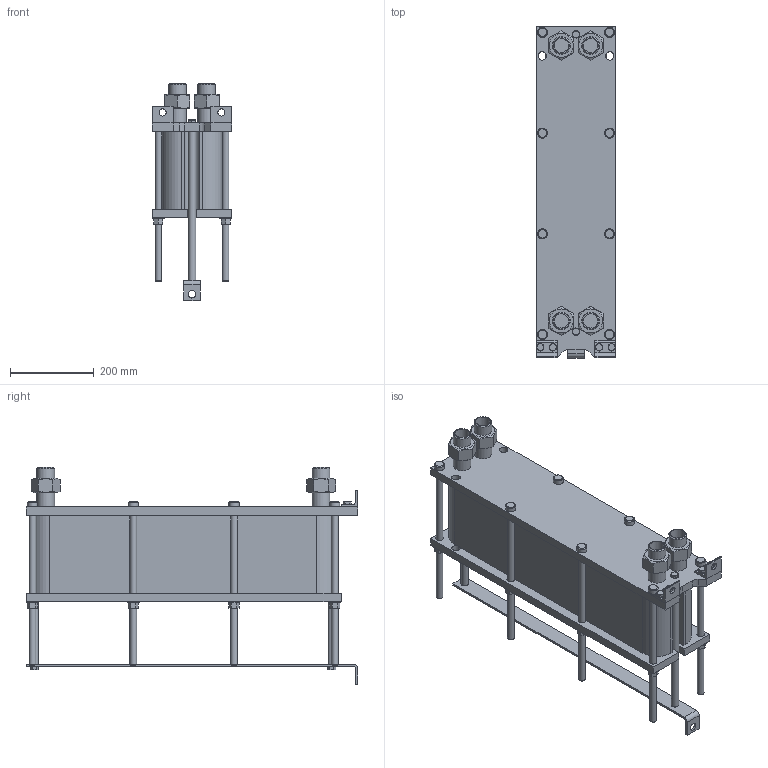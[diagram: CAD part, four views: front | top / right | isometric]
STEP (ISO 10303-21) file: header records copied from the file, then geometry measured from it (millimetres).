
FILE_DESCRIPTION(/* description */ (''),/* implementation_level */ '2;1');
FILE_NAME(/* name */ 'C:\Users\zhuro\Desktop\ENCO\TO\ЭН-008\ЭН-0,5-008-60-1.stp',/* time_stamp */ '2022-06-06T10:50:24+03:00',/* author */ ('zhuro'),/* organization */ (''),/* preprocessor_version */ 'ST-DEVELOPER v18.1',/* originating_system */ 'Autodesk Inventor 2022',/* authorisation */ '');
FILE_SCHEMA (('AUTOMOTIVE_DESIGN { 1 0 10303 214 3 1 1 }'));
Length unit declared in the file: millimetre
Products named in the file (1): ЭН-0,5-008-60-1
Bounding box: 190 x 790 x 517 mm (x, y, z)
Volume: 25762485.4 mm3; surface area: 1683171.6 mm2
Topology: 40 solids, 40 shells, 428 faces, 924 edges, 606 vertices
Faces by surface type: plane 273, cylinder 109, cone 40, torus 6
Full cylindrical faces by diameter (mm): 12 x6, 14 x2, 16 x20, 17 x8, 18 x19, 20 x5, 24 x8, 28 x8, 34.3 x8, 42.3 x8
Entity records: 15843 total; most frequent: CARTESIAN_POINT 5991, DIRECTION 1984, ORIENTED_EDGE 1848, EDGE_CURVE 924, AXIS2_PLACEMENT_3D 715, VERTEX_POINT 606, LINE 554, VECTOR 554
